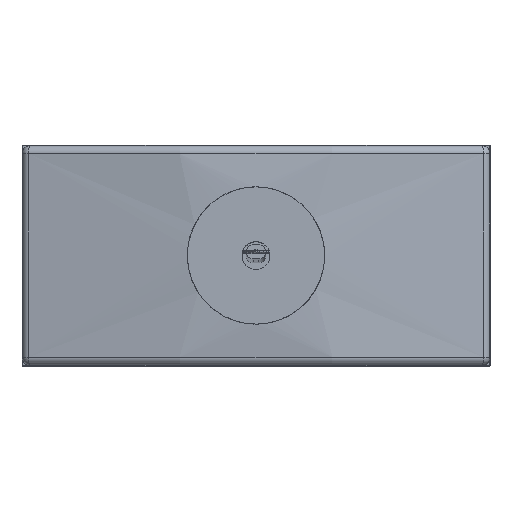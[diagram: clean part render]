
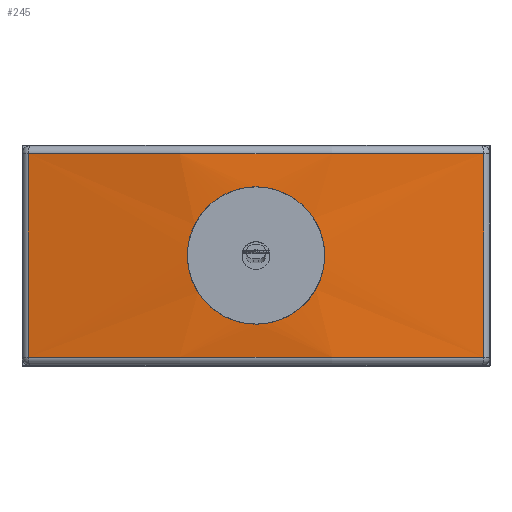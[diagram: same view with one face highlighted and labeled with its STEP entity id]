
A CAD part, top view. The second image highlights one B-rep face of the part: STEP entity #245.
In plain terms, the highlighted cylindrical face has radius 35.78 mm (diameter 71.56 mm), a partial arc.
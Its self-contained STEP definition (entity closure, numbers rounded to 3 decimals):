
#20 = DIRECTION ( 'NONE',  ( 0., 0., -1. ) ) ;
#27 = CARTESIAN_POINT ( 'NONE',  ( -0.793, -2.34, 20.592 ) ) ;
#50 = CARTESIAN_POINT ( 'NONE',  ( -2.45, 0.32, 20.516 ) ) ;
#76 = CARTESIAN_POINT ( 'NONE',  ( 1.961, -1.503, 20.546 ) ) ;
#105 = CARTESIAN_POINT ( 'NONE',  ( 0.322, -2.449, 20.599 ) ) ;
#126 = CARTESIAN_POINT ( 'NONE',  ( -0.159, -2.465, 20.6 ) ) ;
#167 = EDGE_CURVE ( 'NONE', #1175, #1729, #1120, .T. ) ;
#245 = ADVANCED_FACE ( 'NONE', ( #2716, #1066 ), #1846, .T. ) ;
#309 = CIRCLE ( 'NONE', #1139, 35.78 ) ;
#332 = CARTESIAN_POINT ( 'NONE',  ( 1.501, 1.962, 20.569 ) ) ;
#373 = B_SPLINE_CURVE_WITH_KNOTS ( 'NONE', 3,
 ( #2481, #2506, #3237, #4458, #443, #491, #540, #76, #3577, #854, #3657, #1706, #1271, #2846, #877, #105, #2796, #126, #831, #3601, #27, #1608, #4873, #906, #1682, #466, #2410, #4432, #2452, #3998, #4409, #1292, #517, #2901, #50, #1323, #1630, #2430, #4046, #3258, #2868, #1471, #4194, #3497, #2999, #2249, #4692, #717, #1421, #4298, #4273, #3022, #3862, #332, #1887, #2218, #4669, #1838, #669, #2297, #3418, #1031 ),
 .UNSPECIFIED., .T., .F.,
 ( 4, 2, 2, 2, 2, 2, 2, 2, 2, 2, 2, 2, 2, 2, 2, 2, 2, 2, 2, 2, 2, 2, 2, 2, 2, 2, 2, 2, 2, 2, 4 ),
 ( 0., 0., 0.001, 0.001, 0.002, 0.002, 0.003, 0.003, 0.004, 0.004, 0.005, 0.005, 0.006, 0.006, 0.007, 0.007, 0.008, 0.008, 0.009, 0.01, 0.01, 0.011, 0.011, 0.012, 0.012, 0.013, 0.013, 0.013, 0.014, 0.014, 0.015 ),
 .UNSPECIFIED. ) ;
#443 = CARTESIAN_POINT ( 'NONE',  ( 2.339, -0.795, 20.524 ) ) ;
#466 = CARTESIAN_POINT ( 'NONE',  ( -1.857, -1.629, 20.552 ) ) ;
#491 = CARTESIAN_POINT ( 'NONE',  ( 2.215, -1.093, 20.531 ) ) ;
#517 = CARTESIAN_POINT ( 'NONE',  ( -2.465, -0.162, 20.515 ) ) ;
#540 = CARTESIAN_POINT ( 'NONE',  ( 2.139, -1.235, 20.536 ) ) ;
#564 = AXIS2_PLACEMENT_3D ( 'NONE', #2046, #1351, #4048 ) ;
#669 = CARTESIAN_POINT ( 'NONE',  ( 2.215, 1.094, 20.531 ) ) ;
#703 = EDGE_CURVE ( 'NONE', #4405, #1175, #309, .T. ) ;
#717 = CARTESIAN_POINT ( 'NONE',  ( 0.16, 2.465, 20.6 ) ) ;
#831 = CARTESIAN_POINT ( 'NONE',  ( -0.323, -2.449, 20.599 ) ) ;
#854 = CARTESIAN_POINT ( 'NONE',  ( 1.629, -1.857, 20.563 ) ) ;
#877 = CARTESIAN_POINT ( 'NONE',  ( 0.64, -2.386, 20.595 ) ) ;
#906 = CARTESIAN_POINT ( 'NONE',  ( -1.503, -1.961, 20.569 ) ) ;
#1031 = CARTESIAN_POINT ( 'NONE',  ( 2.465, 0., 20.515 ) ) ;
#1066 = FACE_BOUND ( 'NONE', #2364, .T. ) ;
#1120 = LINE ( 'NONE', #4619, #3233 ) ;
#1139 = AXIS2_PLACEMENT_3D ( 'NONE', #2426, #1166, #20 ) ;
#1166 = DIRECTION ( 'NONE',  ( 0., -1., 0. ) ) ;
#1175 = VERTEX_POINT ( 'NONE', #3567 ) ;
#1271 = CARTESIAN_POINT ( 'NONE',  ( 1.092, -2.216, 20.584 ) ) ;
#1292 = CARTESIAN_POINT ( 'NONE',  ( -2.449, -0.325, 20.516 ) ) ;
#1323 = CARTESIAN_POINT ( 'NONE',  ( -2.387, 0.638, 20.52 ) ) ;
#1351 = DIRECTION ( 'NONE',  ( 0., 1., 0. ) ) ;
#1421 = CARTESIAN_POINT ( 'NONE',  ( 0.321, 2.449, 20.599 ) ) ;
#1471 = CARTESIAN_POINT ( 'NONE',  ( -1.237, 2.138, 20.579 ) ) ;
#1608 = CARTESIAN_POINT ( 'NONE',  ( -1.091, -2.216, 20.584 ) ) ;
#1630 = CARTESIAN_POINT ( 'NONE',  ( -2.339, 0.794, 20.524 ) ) ;
#1682 = CARTESIAN_POINT ( 'NONE',  ( -1.627, -1.859, 20.563 ) ) ;
#1706 = CARTESIAN_POINT ( 'NONE',  ( 1.236, -2.139, 20.579 ) ) ;
#1709 = ORIENTED_EDGE ( 'NONE', *, *, #3083, .T. ) ;
#1729 = VERTEX_POINT ( 'NONE', #1743 ) ;
#1743 = CARTESIAN_POINT ( 'NONE',  ( -8.168, -3.65, 19.655 ) ) ;
#1805 = VECTOR ( 'NONE', #2950, 1000. ) ;
#1838 = CARTESIAN_POINT ( 'NONE',  ( 2.138, 1.238, 20.536 ) ) ;
#1846 = CYLINDRICAL_SURFACE ( 'NONE', #2488, 35.78 ) ;
#1887 = CARTESIAN_POINT ( 'NONE',  ( 1.628, 1.858, 20.563 ) ) ;
#2018 = ORIENTED_EDGE ( 'NONE', *, *, #167, .T. ) ;
#2046 = CARTESIAN_POINT ( 'NONE',  ( 0., -3.65, -15.18 ) ) ;
#2218 = CARTESIAN_POINT ( 'NONE',  ( 1.855, 1.631, 20.552 ) ) ;
#2249 = CARTESIAN_POINT ( 'NONE',  ( -0.325, 2.449, 20.599 ) ) ;
#2297 = CARTESIAN_POINT ( 'NONE',  ( 2.399, 0.649, 20.52 ) ) ;
#2364 = EDGE_LOOP ( 'NONE', ( #1709 ) ) ;
#2410 = CARTESIAN_POINT ( 'NONE',  ( -1.959, -1.504, 20.546 ) ) ;
#2426 = CARTESIAN_POINT ( 'NONE',  ( 0., 3.65, -15.18 ) ) ;
#2430 = CARTESIAN_POINT ( 'NONE',  ( -2.155, 1.239, 20.535 ) ) ;
#2452 = CARTESIAN_POINT ( 'NONE',  ( -2.215, -1.093, 20.531 ) ) ;
#2481 = CARTESIAN_POINT ( 'NONE',  ( 2.465, 0., 20.515 ) ) ;
#2488 = AXIS2_PLACEMENT_3D ( 'NONE', #4308, #3030, #2641 ) ;
#2506 = CARTESIAN_POINT ( 'NONE',  ( 2.465, -0.163, 20.515 ) ) ;
#2587 = ORIENTED_EDGE ( 'NONE', *, *, #703, .T. ) ;
#2612 = CARTESIAN_POINT ( 'NONE',  ( 8.168, -16.65, 19.655 ) ) ;
#2641 = DIRECTION ( 'NONE',  ( 0., 0., 1. ) ) ;
#2669 = DIRECTION ( 'NONE',  ( 0., -1., 0. ) ) ;
#2716 = FACE_OUTER_BOUND ( 'NONE', #3761, .T. ) ;
#2796 = CARTESIAN_POINT ( 'NONE',  ( 0.162, -2.465, 20.6 ) ) ;
#2846 = CARTESIAN_POINT ( 'NONE',  ( 0.796, -2.339, 20.591 ) ) ;
#2865 = CARTESIAN_POINT ( 'NONE',  ( 8.168, 3.65, 19.655 ) ) ;
#2868 = CARTESIAN_POINT ( 'NONE',  ( -1.505, 1.959, 20.569 ) ) ;
#2901 = CARTESIAN_POINT ( 'NONE',  ( -2.465, 0.16, 20.515 ) ) ;
#2950 = DIRECTION ( 'NONE',  ( 0., 1., 0. ) ) ;
#2960 = CIRCLE ( 'NONE', #564, 35.78 ) ;
#2999 = CARTESIAN_POINT ( 'NONE',  ( -0.64, 2.386, 20.595 ) ) ;
#3022 = CARTESIAN_POINT ( 'NONE',  ( 1.091, 2.216, 20.584 ) ) ;
#3030 = DIRECTION ( 'NONE',  ( 0., 1., 0. ) ) ;
#3083 = EDGE_CURVE ( 'NONE', #4413, #4413, #373, .T. ) ;
#3233 = VECTOR ( 'NONE', #2669, 1000. ) ;
#3237 = CARTESIAN_POINT ( 'NONE',  ( 2.449, -0.323, 20.516 ) ) ;
#3258 = CARTESIAN_POINT ( 'NONE',  ( -1.631, 1.855, 20.563 ) ) ;
#3371 = VERTEX_POINT ( 'NONE', #4474 ) ;
#3418 = CARTESIAN_POINT ( 'NONE',  ( 2.465, 0.326, 20.515 ) ) ;
#3497 = CARTESIAN_POINT ( 'NONE',  ( -0.797, 2.338, 20.591 ) ) ;
#3516 = ORIENTED_EDGE ( 'NONE', *, *, #4189, .T. ) ;
#3567 = CARTESIAN_POINT ( 'NONE',  ( -8.168, 3.65, 19.655 ) ) ;
#3577 = CARTESIAN_POINT ( 'NONE',  ( 1.857, -1.63, 20.552 ) ) ;
#3601 = CARTESIAN_POINT ( 'NONE',  ( -0.639, -2.386, 20.595 ) ) ;
#3657 = CARTESIAN_POINT ( 'NONE',  ( 1.505, -1.959, 20.569 ) ) ;
#3732 = ORIENTED_EDGE ( 'NONE', *, *, #4095, .T. ) ;
#3761 = EDGE_LOOP ( 'NONE', ( #3732, #3516, #2587, #2018 ) ) ;
#3843 = LINE ( 'NONE', #2612, #1805 ) ;
#3862 = CARTESIAN_POINT ( 'NONE',  ( 1.233, 2.141, 20.579 ) ) ;
#3998 = CARTESIAN_POINT ( 'NONE',  ( -2.339, -0.795, 20.524 ) ) ;
#4046 = CARTESIAN_POINT ( 'NONE',  ( -1.972, 1.514, 20.546 ) ) ;
#4048 = DIRECTION ( 'NONE',  ( 0., 0., 1. ) ) ;
#4095 = EDGE_CURVE ( 'NONE', #1729, #3371, #2960, .T. ) ;
#4189 = EDGE_CURVE ( 'NONE', #3371, #4405, #3843, .T. ) ;
#4194 = CARTESIAN_POINT ( 'NONE',  ( -1.095, 2.214, 20.584 ) ) ;
#4273 = CARTESIAN_POINT ( 'NONE',  ( 0.792, 2.34, 20.592 ) ) ;
#4298 = CARTESIAN_POINT ( 'NONE',  ( 0.636, 2.387, 20.595 ) ) ;
#4308 = CARTESIAN_POINT ( 'NONE',  ( 0., -16.65, -15.18 ) ) ;
#4405 = VERTEX_POINT ( 'NONE', #2865 ) ;
#4409 = CARTESIAN_POINT ( 'NONE',  ( -2.386, -0.641, 20.52 ) ) ;
#4413 = VERTEX_POINT ( 'NONE', #4851 ) ;
#4432 = CARTESIAN_POINT ( 'NONE',  ( -2.138, -1.237, 20.536 ) ) ;
#4458 = CARTESIAN_POINT ( 'NONE',  ( 2.386, -0.638, 20.52 ) ) ;
#4474 = CARTESIAN_POINT ( 'NONE',  ( 8.168, -3.65, 19.655 ) ) ;
#4619 = CARTESIAN_POINT ( 'NONE',  ( -8.168, -16.65, 19.655 ) ) ;
#4669 = CARTESIAN_POINT ( 'NONE',  ( 1.958, 1.507, 20.547 ) ) ;
#4692 = CARTESIAN_POINT ( 'NONE',  ( -0.165, 2.465, 20.6 ) ) ;
#4851 = CARTESIAN_POINT ( 'NONE',  ( 2.465, 0., 20.515 ) ) ;
#4873 = CARTESIAN_POINT ( 'NONE',  ( -1.235, -2.139, 20.579 ) ) ;
